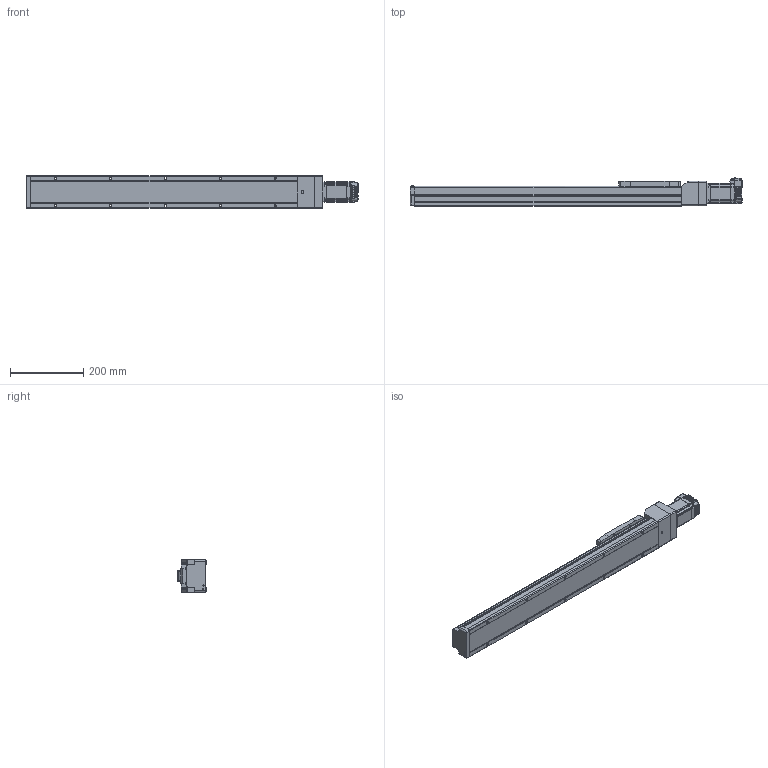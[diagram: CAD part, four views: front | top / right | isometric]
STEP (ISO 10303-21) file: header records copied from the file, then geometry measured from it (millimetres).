
FILE_DESCRIPTION (( 'STEP AP214' ), '1' );
FILE_NAME ('LEFS3(+)-40NM1仩-550-23L.STEP', '2023-06-02T05:12:15', ( '' ), ( '' ), 'SwSTEP 2.0', 'SolidWorks 2019', '' );
FILE_SCHEMA (( 'AUTOMOTIVE_DESIGN' ));
Length unit declared in the file: millimetre
Products named in the file (5): LEFS3(+)-40NM1仩-550-23L; LEFS3(+)-40NM1_Motor Flange; LEFS3(+)-40NM1?_BODY_550; CM3(+)-23L50A_4-M4; LEFS3(+)-40NM1_TABLE
Assembly tree (4 placements, depth 2):
  LEFS3(+)-40NM1仩-550-23L
    LEFS3(+)-40NM1?_BODY_550
    LEFS3(+)-40NM1_TABLE
    LEFS3(+)-40NM1_Motor Flange
    CM3(+)-23L50A_4-M4
Bounding box: 907.6 x 76.75 x 90 mm (x, y, z)
Volume: 3838243.1 mm3; surface area: 349547.6 mm2
Topology: 5 solids, 14 shells, 1654 faces, 4293 edges, 2656 vertices
Faces by surface type: plane 764, cylinder 519, bspline 133, cone 117, torus 74, sphere 47
Entity records: 56073 total; most frequent: CARTESIAN_POINT 14009, ORIENTED_EDGE 8436, DIRECTION 7866, EDGE_CURVE 4218, AXIS2_PLACEMENT_3D 2676, VERTEX_POINT 2656, VECTOR 2514, LINE 2514
